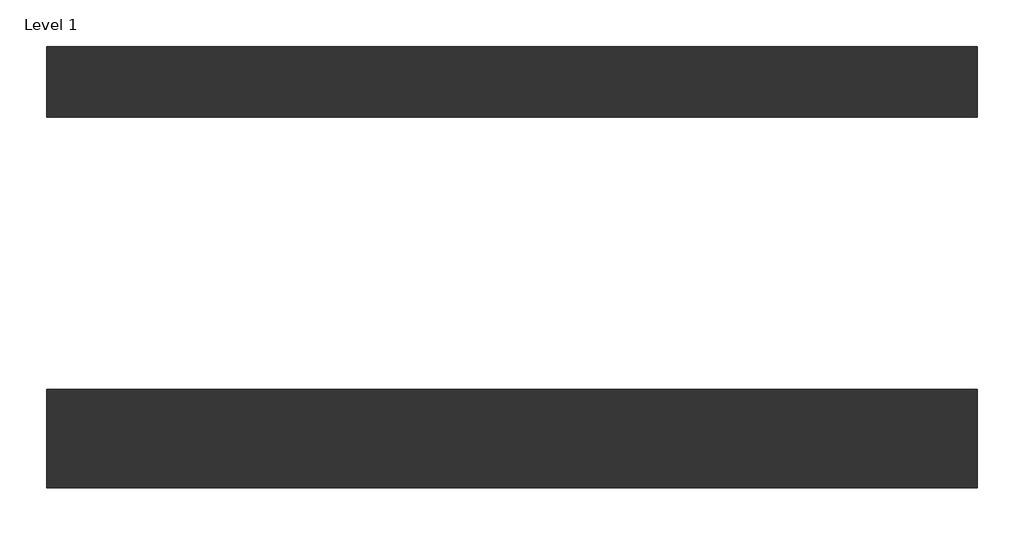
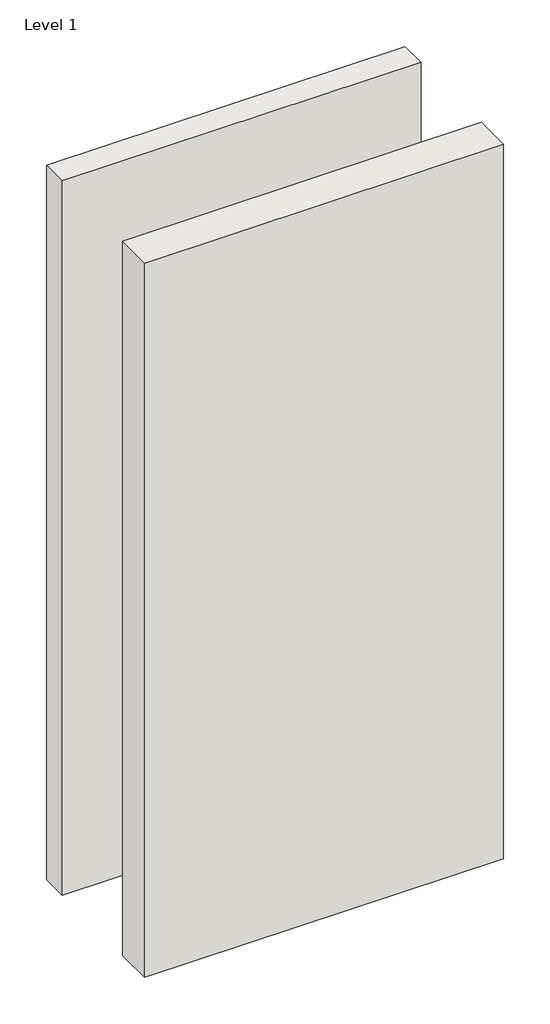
# One storey: 2 walls.
"""IFC4 building model written with IfcOpenShell, lengths in millimetres."""

from ifc_helpers import new_model, si_unit, origin, origin_with_axes, place, context, project, spatial, polyline, outline, extrude, element, save

model = new_model("IFC4")

# Units and contexts
model_context = context("Model", 3, world=origin())
ifc_project = project(units=[si_unit("LENGTHUNIT", "METRE", prefix="MILLI")], contexts=[model_context])

# Site, building, storey
site = spatial("IfcSite", under=ifc_project)
building = spatial("IfcBuilding", under=site)
storey = spatial("IfcBuildingStorey", under=building, Name="Level 1", Elevation=0.0)

# Walls
placement = place(None, origin())
element("IfcWall", 1, ObjectType="Interior-Steel Frame-Staggered Stud-CSR1230-144mm", at=placement, inside=storey, context=model_context, shape_type="SweptSolid", body=[
    extrude(outline(polyline([(-736.2076433, -568.6132731), (1163.7923567, -568.6132731), (1163.7923567, -712.6132731), (-736.2076433, -712.6132731), (-736.2076433, -568.6132731)])), origin_with_axes(), (0.0, 0.0, 1.0), 4000.0),
])
element("IfcWall", 2, ObjectType="Interior-Steel Frame-Staggered Stud-CSR1230-202mm", at=placement, inside=storey, context=model_context, shape_type="SweptSolid", body=[
    extrude(outline(polyline([(-736.2076433, -1268.6132731), (1163.7923567, -1268.6132731), (1163.7923567, -1470.6132731), (-736.2076433, -1470.6132731), (-736.2076433, -1268.6132731)])), origin_with_axes(), (0.0, 0.0, 1.0), 4000.0),
])

save(model, "model.ifc")
